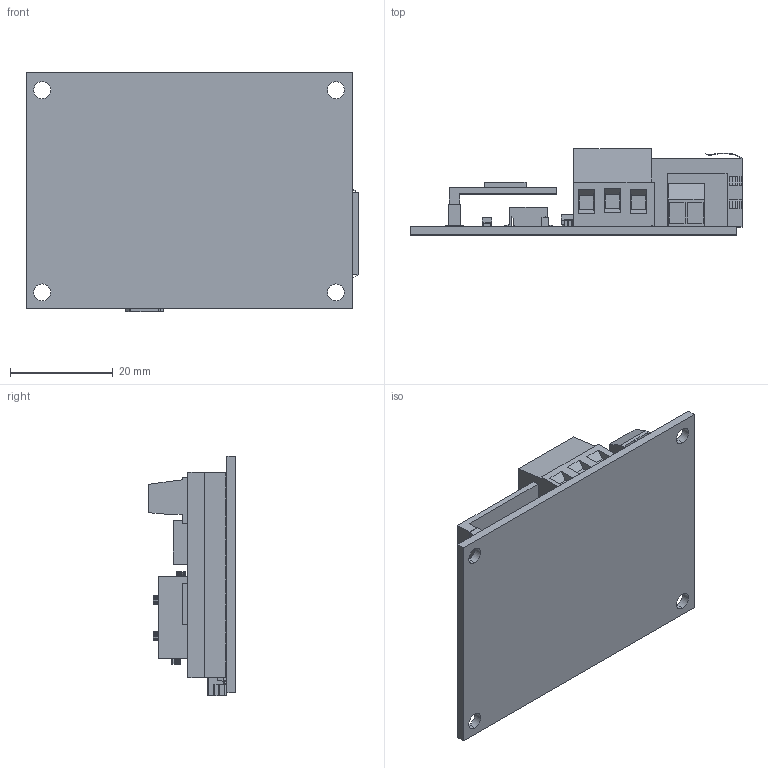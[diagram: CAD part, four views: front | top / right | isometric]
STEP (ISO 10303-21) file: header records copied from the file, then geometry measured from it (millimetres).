
FILE_DESCRIPTION (( 'STEP AP214' ), '1' );
FILE_NAME ('FATHOMX-ASM-FATHOM-X-R1.STEP', '2018-06-29T15:57:18', ( '' ), ( '' ), 'SwSTEP 2.0', 'SolidWorks 2016', '' );
FILE_SCHEMA (( 'AUTOMOTIVE_DESIGN' ));
Length unit declared in the file: metre
Products named in the file (1): FATHOMX-ASM-FATHOM-X-R1
Bounding box: 64.59 x 16.8 x 46.6 mm (x, y, z)
Volume: 12458.3 mm3; surface area: 14877.6 mm2
Topology: 23 solids, 23 shells, 1258 faces, 3238 edges, 2097 vertices
Faces by surface type: plane 1137, cylinder 82, bspline 39
Entity records: 54365 total; most frequent: CARTESIAN_POINT 9836, ORIENTED_EDGE 6476, DIRECTION 5733, EDGE_CURVE 3238, VECTOR 2977, LINE 2977, VERTEX_POINT 2097, AXIS2_PLACEMENT_3D 1378
